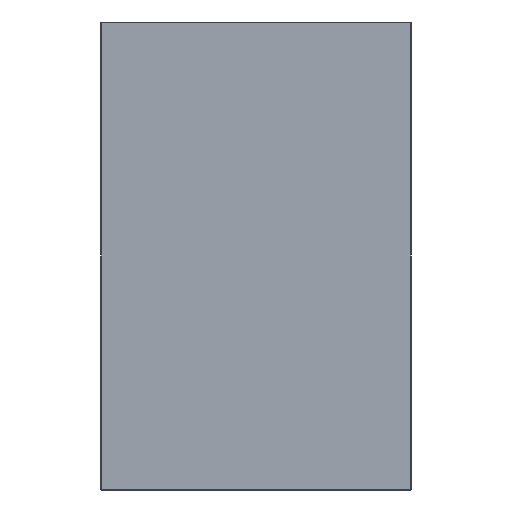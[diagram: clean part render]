
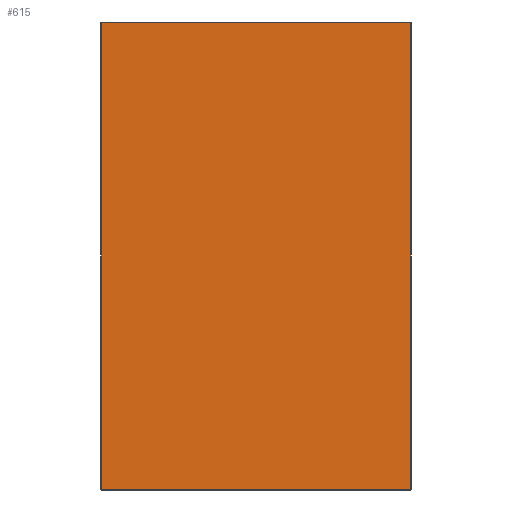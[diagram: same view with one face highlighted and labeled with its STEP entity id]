
A CAD part, front view. The second image highlights one B-rep face of the part: STEP entity #615.
In plain terms, the highlighted planar face has unit normal (0, -1, 0).
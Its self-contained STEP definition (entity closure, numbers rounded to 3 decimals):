
#3 = LINE ( 'NONE', #177, #416 ) ;
#58 = DIRECTION ( 'NONE',  ( 1., 0., 0. ) ) ;
#70 = VECTOR ( 'NONE', #135, 1000. ) ;
#122 = CARTESIAN_POINT ( 'NONE',  ( 198., 0., -297. ) ) ;
#135 = DIRECTION ( 'NONE',  ( 0., 0., -1. ) ) ;
#139 = EDGE_CURVE ( 'NONE', #438, #215, #578, .T. ) ;
#161 = VERTEX_POINT ( 'NONE', #366 ) ;
#177 = CARTESIAN_POINT ( 'NONE',  ( -198., 0., 297. ) ) ;
#178 = CARTESIAN_POINT ( 'NONE',  ( -197., 0., -297. ) ) ;
#200 = CARTESIAN_POINT ( 'NONE',  ( 0., 0., 0. ) ) ;
#206 = EDGE_CURVE ( 'NONE', #282, #438, #3, .T. ) ;
#215 = VERTEX_POINT ( 'NONE', #178 ) ;
#219 = CARTESIAN_POINT ( 'NONE',  ( -197., 0., -298. ) ) ;
#229 = AXIS2_PLACEMENT_3D ( 'NONE', #200, #508, #429 ) ;
#254 = EDGE_LOOP ( 'NONE', ( #591, #483, #386, #487 ) ) ;
#263 = VECTOR ( 'NONE', #58, 1000. ) ;
#282 = VERTEX_POINT ( 'NONE', #572 ) ;
#286 = CARTESIAN_POINT ( 'NONE',  ( 197., 0., 298. ) ) ;
#366 = CARTESIAN_POINT ( 'NONE',  ( 197., 0., -297. ) ) ;
#386 = ORIENTED_EDGE ( 'NONE', *, *, #395, .T. ) ;
#395 = EDGE_CURVE ( 'NONE', #161, #282, #608, .T. ) ;
#416 = VECTOR ( 'NONE', #640, 1000. ) ;
#429 = DIRECTION ( 'NONE',  ( 0., 0., -1. ) ) ;
#436 = VECTOR ( 'NONE', #501, 1000. ) ;
#438 = VERTEX_POINT ( 'NONE', #596 ) ;
#473 = PLANE ( 'NONE',  #229 ) ;
#483 = ORIENTED_EDGE ( 'NONE', *, *, #554, .T. ) ;
#484 = FACE_OUTER_BOUND ( 'NONE', #254, .T. ) ;
#487 = ORIENTED_EDGE ( 'NONE', *, *, #206, .T. ) ;
#501 = DIRECTION ( 'NONE',  ( 0., 0., 1. ) ) ;
#506 = LINE ( 'NONE', #122, #263 ) ;
#508 = DIRECTION ( 'NONE',  ( 0., -1., 0. ) ) ;
#554 = EDGE_CURVE ( 'NONE', #215, #161, #506, .T. ) ;
#572 = CARTESIAN_POINT ( 'NONE',  ( 197., 0., 297. ) ) ;
#578 = LINE ( 'NONE', #219, #70 ) ;
#591 = ORIENTED_EDGE ( 'NONE', *, *, #139, .T. ) ;
#596 = CARTESIAN_POINT ( 'NONE',  ( -197., 0., 297. ) ) ;
#608 = LINE ( 'NONE', #286, #436 ) ;
#615 = ADVANCED_FACE ( 'NONE', ( #484 ), #473, .T. ) ;
#640 = DIRECTION ( 'NONE',  ( -1., 0., 0. ) ) ;
